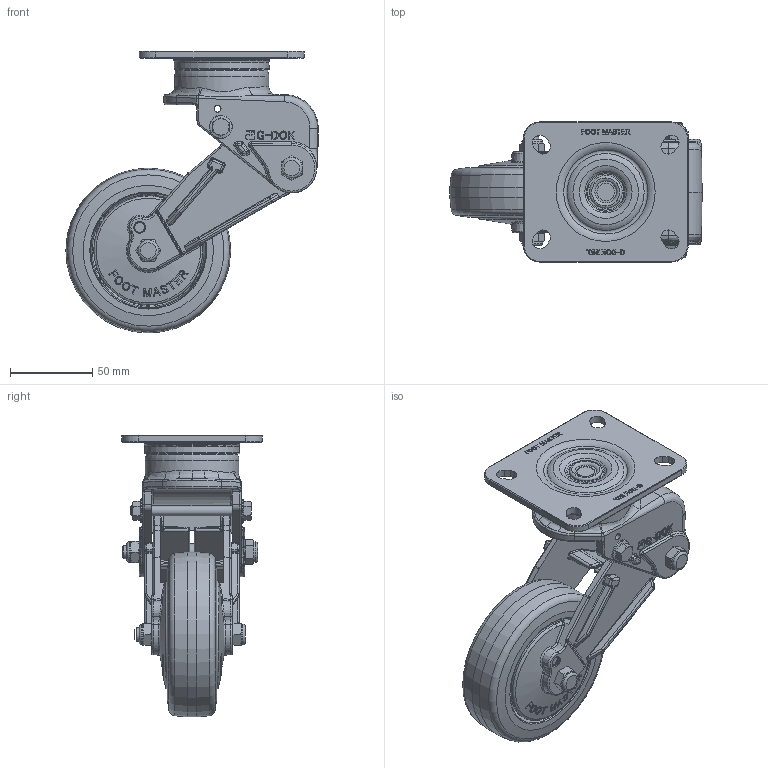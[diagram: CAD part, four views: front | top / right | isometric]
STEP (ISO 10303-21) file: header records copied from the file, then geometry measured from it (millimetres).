
FILE_DESCRIPTION(/* description */ (''),/* implementation_level */ '2;1');
FILE_NAME(/* name */ 'Z:\1.기술연구소\2.연구개발 진행중\25.충격흡수식_BBB\JYH\GDS-100-BB\2020년도\3.도면\1.3D\STEP-FILE\홈페이지용 3D_전달용\GDSB-100-ASF-LUD_PEU.stp',/* time_stamp */ '2021-10-08T20:11:28+09:00',/* author */ ('admin'),/* organization */ (''),/* preprocessor_version */ 'ST-DEVELOPER v18.1',/* originating_system */ 'Autodesk Inventor 2021',/* authorisation */ '');
FILE_SCHEMA (('AUTOMOTIVE_DESIGN { 1 0 10303 214 3 1 1 }'));
Length unit declared in the file: millimetre
Products named in the file (1): GDSB-100-ASF-LUD_PEU
Bounding box: 153.02 x 85 x 171 mm (x, y, z)
Volume: 377283.3 mm3; surface area: 122232.8 mm2
Topology: 1 solids, 2 shells, 2626 faces, 6566 edges, 3998 vertices
Faces by surface type: bspline 968, plane 888, cylinder 376, cone 191, torus 175, sphere 28
Full cylindrical faces by diameter (mm): 4.2 x2, 6 x2, 6.2 x2, 7.4 x1, 7.95 x5, 8.2 x2, 9.95 x1, 10.2 x4, 10.7 x1, 11.6 x2, 12.5 x4, 14 x2, 20 x1, 53.665 x2, 57 x1, 100 x1
Entity records: 102972 total; most frequent: CARTESIAN_POINT 43035, ORIENTED_EDGE 12990, DIRECTION 10370, EDGE_CURVE 6495, VERTEX_POINT 3998, AXIS2_PLACEMENT_3D 3939, EDGE_LOOP 2776, FACE_OUTER_BOUND 2626
